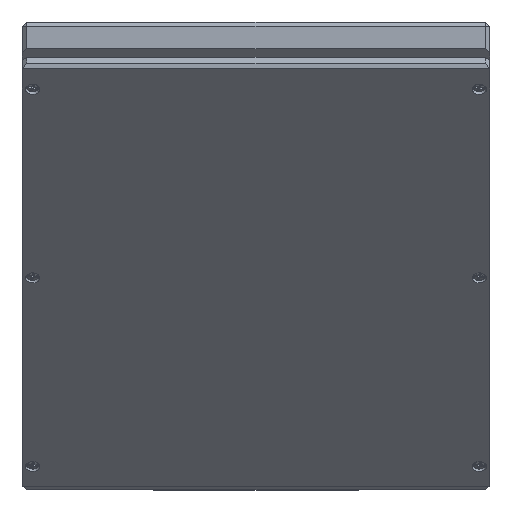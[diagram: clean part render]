
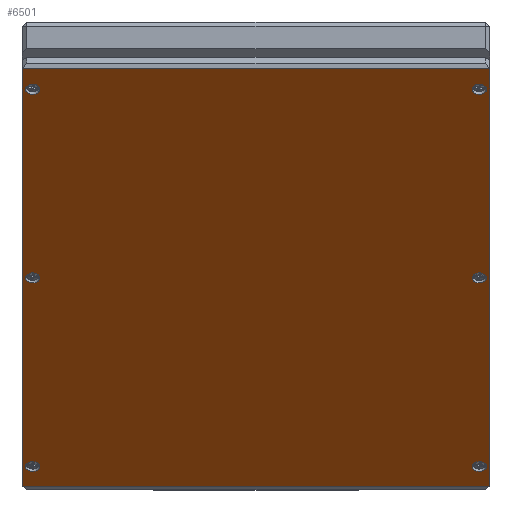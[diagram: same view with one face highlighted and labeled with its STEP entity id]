
A CAD part, top view. The second image highlights one B-rep face of the part: STEP entity #6501.
In plain terms, the highlighted planar face has unit normal (0, -0.707, 0.707).
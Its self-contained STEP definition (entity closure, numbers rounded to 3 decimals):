
#256 = CIRCLE ( 'NONE', #3654, 1.75 ) ;
#540 = EDGE_CURVE ( 'NONE', #1642, #1642, #6145, .T. ) ;
#771 = DIRECTION ( 'NONE',  ( 0., -0.707, 0.707 ) ) ;
#1015 = VERTEX_POINT ( 'NONE', #3597 ) ;
#1048 = EDGE_CURVE ( 'NONE', #1015, #10961, #5740, .T. ) ;
#1163 = DIRECTION ( 'NONE',  ( -1., 0., 0. ) ) ;
#1250 = EDGE_CURVE ( 'NONE', #9172, #10961, #5414, .T. ) ;
#1359 = VERTEX_POINT ( 'NONE', #2232 ) ;
#1481 = EDGE_LOOP ( 'NONE', ( #8734 ) ) ;
#1483 = CARTESIAN_POINT ( 'NONE',  ( 54.5, 40.588, 309.073 ) ) ;
#1491 = CARTESIAN_POINT ( 'NONE',  ( -56.25, 40.588, 309.073 ) ) ;
#1538 = CIRCLE ( 'NONE', #4813, 1.75 ) ;
#1642 = VERTEX_POINT ( 'NONE', #6620 ) ;
#1669 = DIRECTION ( 'NONE',  ( 0., -0.707, 0.707 ) ) ;
#1732 = EDGE_CURVE ( 'NONE', #9172, #1359, #5092, .T. ) ;
#1783 = CARTESIAN_POINT ( 'NONE',  ( -54.5, 40.588, 309.073 ) ) ;
#1813 = EDGE_LOOP ( 'NONE', ( #8648 ) ) ;
#1916 = AXIS2_PLACEMENT_3D ( 'NONE', #1483, #771, #3787 ) ;
#2157 = CARTESIAN_POINT ( 'NONE',  ( 52.75, -5.374, 263.111 ) ) ;
#2232 = CARTESIAN_POINT ( 'NONE',  ( 57., -56.286, 212.199 ) ) ;
#2270 = AXIS2_PLACEMENT_3D ( 'NONE', #7602, #7550, #7502 ) ;
#2366 = DIRECTION ( 'NONE',  ( -1., 0., 0. ) ) ;
#2381 = CARTESIAN_POINT ( 'NONE',  ( -56., 45.538, 314.023 ) ) ;
#2433 = CARTESIAN_POINT ( 'NONE',  ( 52.75, 40.588, 309.073 ) ) ;
#2434 = DIRECTION ( 'NONE',  ( -1., 0., 0. ) ) ;
#2444 = DIRECTION ( 'NONE',  ( 0., -0.707, 0.707 ) ) ;
#2457 = CARTESIAN_POINT ( 'NONE',  ( -54.5, -5.374, 263.111 ) ) ;
#2565 = DIRECTION ( 'NONE',  ( 0., 0.707, 0.707 ) ) ;
#3040 = AXIS2_PLACEMENT_3D ( 'NONE', #9375, #10098, #9278 ) ;
#3058 = EDGE_LOOP ( 'NONE', ( #8677 ) ) ;
#3597 = CARTESIAN_POINT ( 'NONE',  ( -57., -56.286, 212.199 ) ) ;
#3654 = AXIS2_PLACEMENT_3D ( 'NONE', #5701, #5658, #5139 ) ;
#3787 = DIRECTION ( 'NONE',  ( -1., 0., 0. ) ) ;
#3887 = CARTESIAN_POINT ( 'NONE',  ( -56.25, -51.336, 217.149 ) ) ;
#3903 = VERTEX_POINT ( 'NONE', #8545 ) ;
#4063 = EDGE_LOOP ( 'NONE', ( #8723 ) ) ;
#4374 = CARTESIAN_POINT ( 'NONE',  ( -57., 46.245, 314.73 ) ) ;
#4812 = CARTESIAN_POINT ( 'NONE',  ( 57., 46.245, 314.73 ) ) ;
#4813 = AXIS2_PLACEMENT_3D ( 'NONE', #2457, #2444, #2434 ) ;
#4872 = VERTEX_POINT ( 'NONE', #2157 ) ;
#5081 = DIRECTION ( 'NONE',  ( 0., -0.707, 0.707 ) ) ;
#5083 = CARTESIAN_POINT ( 'NONE',  ( 54.5, -51.336, 217.149 ) ) ;
#5092 = LINE ( 'NONE', #4812, #6411 ) ;
#5139 = DIRECTION ( 'NONE',  ( -1., 0., 0. ) ) ;
#5154 = DIRECTION ( 'NONE',  ( -1., 0., 0. ) ) ;
#5414 = LINE ( 'NONE', #2381, #7496 ) ;
#5578 = CIRCLE ( 'NONE', #7872, 1.75 ) ;
#5658 = DIRECTION ( 'NONE',  ( 0., -0.707, 0.707 ) ) ;
#5701 = CARTESIAN_POINT ( 'NONE',  ( 54.5, -5.374, 263.111 ) ) ;
#5740 = LINE ( 'NONE', #4374, #8340 ) ;
#6055 = EDGE_LOOP ( 'NONE', ( #8755 ) ) ;
#6145 = CIRCLE ( 'NONE', #8165, 1.75 ) ;
#6271 = EDGE_CURVE ( 'NONE', #10008, #10008, #6910, .T. ) ;
#6411 = VECTOR ( 'NONE', #7312, 1000. ) ;
#6501 = ADVANCED_FACE ( 'NONE', ( #12645, #12668, #12709, #12655, #12793, #12617, #12603 ), #9180, .T. ) ;
#6620 = CARTESIAN_POINT ( 'NONE',  ( 52.75, -51.336, 217.149 ) ) ;
#6757 = EDGE_CURVE ( 'NONE', #1015, #1359, #12278, .T. ) ;
#6910 = CIRCLE ( 'NONE', #3040, 1.75 ) ;
#7149 = CARTESIAN_POINT ( 'NONE',  ( 56., -56.286, 212.199 ) ) ;
#7171 = EDGE_LOOP ( 'NONE', ( #8847 ) ) ;
#7296 = EDGE_CURVE ( 'NONE', #9510, #9510, #11906, .T. ) ;
#7312 = DIRECTION ( 'NONE',  ( 0., -0.707, -0.707 ) ) ;
#7496 = VECTOR ( 'NONE', #2366, 1000. ) ;
#7502 = DIRECTION ( 'NONE',  ( -1., 0., 0. ) ) ;
#7550 = DIRECTION ( 'NONE',  ( 0., -0.707, 0.707 ) ) ;
#7602 = CARTESIAN_POINT ( 'NONE',  ( 0., -5.374, 263.111 ) ) ;
#7872 = AXIS2_PLACEMENT_3D ( 'NONE', #1783, #1669, #1163 ) ;
#7985 = CARTESIAN_POINT ( 'NONE',  ( 57., 45.538, 314.023 ) ) ;
#8165 = AXIS2_PLACEMENT_3D ( 'NONE', #5083, #5081, #5154 ) ;
#8340 = VECTOR ( 'NONE', #2565, 1000. ) ;
#8449 = VERTEX_POINT ( 'NONE', #1491 ) ;
#8507 = ORIENTED_EDGE ( 'NONE', *, *, #6757, .T. ) ;
#8545 = CARTESIAN_POINT ( 'NONE',  ( -56.25, -5.374, 263.111 ) ) ;
#8606 = ORIENTED_EDGE ( 'NONE', *, *, #1250, .T. ) ;
#8634 = ORIENTED_EDGE ( 'NONE', *, *, #1048, .F. ) ;
#8648 = ORIENTED_EDGE ( 'NONE', *, *, #540, .F. ) ;
#8650 = ORIENTED_EDGE ( 'NONE', *, *, #1732, .F. ) ;
#8677 = ORIENTED_EDGE ( 'NONE', *, *, #12187, .F. ) ;
#8723 = ORIENTED_EDGE ( 'NONE', *, *, #6271, .F. ) ;
#8734 = ORIENTED_EDGE ( 'NONE', *, *, #7296, .F. ) ;
#8755 = ORIENTED_EDGE ( 'NONE', *, *, #11749, .F. ) ;
#8847 = ORIENTED_EDGE ( 'NONE', *, *, #10147, .F. ) ;
#9172 = VERTEX_POINT ( 'NONE', #7985 ) ;
#9180 = PLANE ( 'NONE',  #2270 ) ;
#9278 = DIRECTION ( 'NONE',  ( -1., 0., 0. ) ) ;
#9375 = CARTESIAN_POINT ( 'NONE',  ( -54.5, -51.336, 217.149 ) ) ;
#9510 = VERTEX_POINT ( 'NONE', #2433 ) ;
#9816 = EDGE_LOOP ( 'NONE', ( #8650, #8606, #8634, #8507 ) ) ;
#10008 = VERTEX_POINT ( 'NONE', #3887 ) ;
#10098 = DIRECTION ( 'NONE',  ( 0., -0.707, 0.707 ) ) ;
#10147 = EDGE_CURVE ( 'NONE', #8449, #8449, #5578, .T. ) ;
#10612 = CARTESIAN_POINT ( 'NONE',  ( -57., 45.538, 314.023 ) ) ;
#10961 = VERTEX_POINT ( 'NONE', #10612 ) ;
#11749 = EDGE_CURVE ( 'NONE', #3903, #3903, #1538, .T. ) ;
#11906 = CIRCLE ( 'NONE', #1916, 1.75 ) ;
#12187 = EDGE_CURVE ( 'NONE', #4872, #4872, #256, .T. ) ;
#12278 = LINE ( 'NONE', #7149, #12280 ) ;
#12280 = VECTOR ( 'NONE', #12677, 1000. ) ;
#12603 = FACE_OUTER_BOUND ( 'NONE', #9816, .T. ) ;
#12617 = FACE_BOUND ( 'NONE', #1813, .T. ) ;
#12645 = FACE_BOUND ( 'NONE', #7171, .T. ) ;
#12655 = FACE_BOUND ( 'NONE', #3058, .T. ) ;
#12668 = FACE_BOUND ( 'NONE', #1481, .T. ) ;
#12677 = DIRECTION ( 'NONE',  ( 1., 0., 0. ) ) ;
#12709 = FACE_BOUND ( 'NONE', #6055, .T. ) ;
#12793 = FACE_BOUND ( 'NONE', #4063, .T. ) ;
